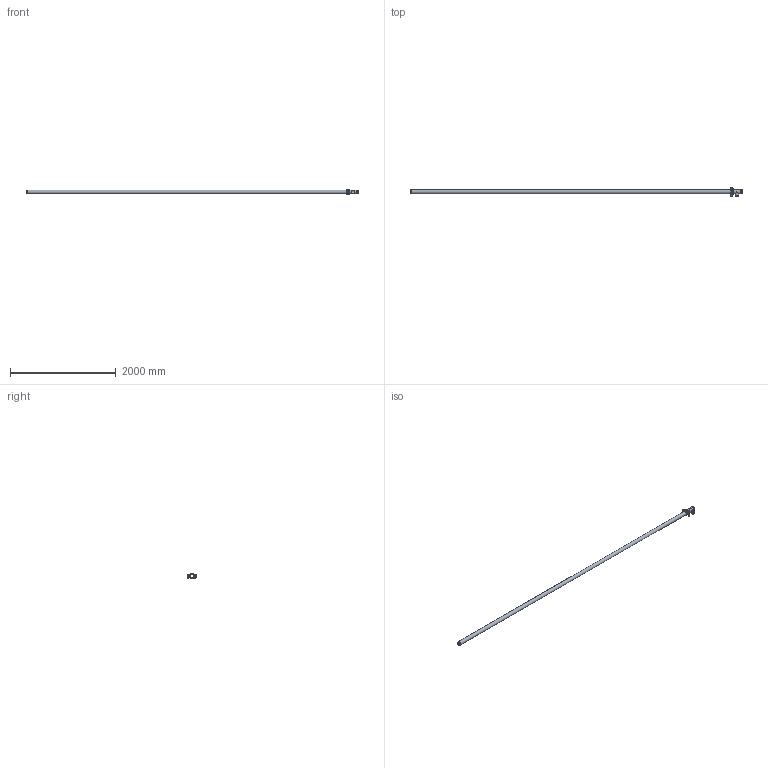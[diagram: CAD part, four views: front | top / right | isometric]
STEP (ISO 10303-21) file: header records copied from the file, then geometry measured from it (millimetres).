
FILE_DESCRIPTION(/* description */ ('VIC LONG RUN FITTING No R12 (OGS)','CAx-IF Rec.Pracs.---Representation and Presentation of Product Manufacturing Information (PMI)---4.0---2014-10-13'),/* implementation_level */ '2;1');
FILE_NAME(/* name */ 'C:\Users\Vjadhav\AppData\Roaming\Autodesk\ApplicationPlugins\Back Up\Victaulic_IPS_Long Run Fittings_No R12 (OGS)\Victaulic_IPS_Long Run Fittings_No R12 (OGS)_2.5 (65).stp',/* time_stamp */ '2020-10-06T18:48:51+05:00',/* author */ ('Vjadhav'),/* organization */ ('Victaulic'),/* preprocessor_version */ 'ST-DEVELOPER v17.2',/* originating_system */ 'Autodesk Inventor 2019',/* authorisation */ '');
FILE_SCHEMA (('AP242_MANAGED_MODEL_BASED_3D_ENGINEERING_MIM_LF { 1 0 10303 442 1 1 4 }'));
Length unit declared in the file: inch
Products named in the file (4): R12-02.5; 020-02.5; 107N-02.5; Pipe_R10-02.5
Assembly tree (3 placements, depth 2):
  R12-02.5
    020-02.5
    107N-02.5
    Pipe_R10-02.5
Bounding box: 6290.31 x 180.97 x 102.11 mm (x, y, z)
Volume: 7242872.9 mm3; surface area: 2770706.4 mm2
Topology: 3 solids, 3 shells, 154 faces, 401 edges, 272 vertices
Faces by surface type: plane 65, cylinder 61, bspline 18, cone 4, torus 4, sphere 2
Full cylindrical faces by diameter (mm): 12.7 x4, 22.225 x2, 60.325 x1, 62.713 x3, 69.088 x5, 73.025 x10
Entity records: 5719 total; most frequent: CARTESIAN_POINT 1490, DIRECTION 855, ORIENTED_EDGE 802, EDGE_CURVE 401, AXIS2_PLACEMENT_3D 339, VERTEX_POINT 272, EDGE_LOOP 185, LINE 177
